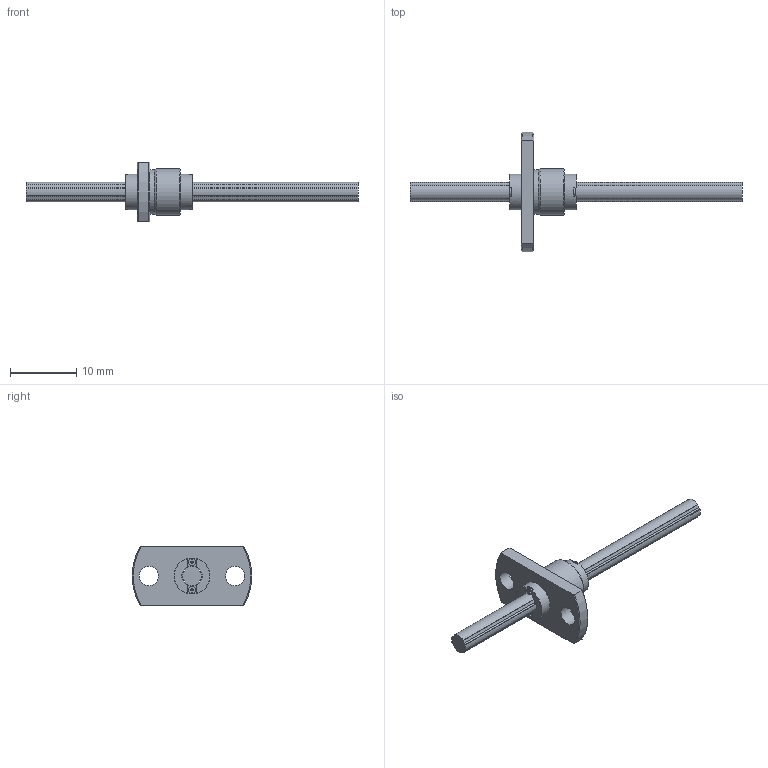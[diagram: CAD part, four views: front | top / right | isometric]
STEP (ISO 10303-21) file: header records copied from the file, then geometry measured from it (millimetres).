
FILE_DESCRIPTION(/* description */ ('STEP AP214'),/* implementation_level */ '2;1');
FILE_NAME(/* name */ 'LF3XD+50L(00)',/* time_stamp */ '2024-09-05T14:40:37+02:00',/* author */ ('License CC BY-ND 4.0'),/* organization */ ('CADENAS'),/* preprocessor_version */ 'ST-DEVELOPER v19.3',/* originating_system */ 'PARTsolutions',/* authorisation */ ' ');
FILE_SCHEMA (('AUTOMOTIVE_DESIGN {1 0 10303 214 3 1 1}'));
Length unit declared in the file: millimetre
Products named in the file (3): LF3XD+50L(00); 1LT3XD 50Shaft; 1LF3XD Cylindar
Assembly tree (2 placements, depth 2):
  LF3XD+50L(00)
    1LT3XD 50Shaft
    1LF3XD Cylindar
Bounding box: 50 x 18 x 9 mm (x, y, z)
Volume: 789.2 mm3; surface area: 1153.5 mm2
Topology: 2 solids, 2 shells, 133 faces, 359 edges, 239 vertices
Faces by surface type: plane 87, cylinder 40, cone 6
Full cylindrical faces by diameter (mm): 1.1 x4, 2.9 x2, 5.4 x2, 6.7 x1, 7 x1
Entity records: 4183 total; most frequent: CARTESIAN_POINT 738, DIRECTION 706, ORIENTED_EDGE 686, EDGE_CURVE 343, LINE 236, VECTOR 236, VERTEX_POINT 235, AXIS2_PLACEMENT_3D 235
